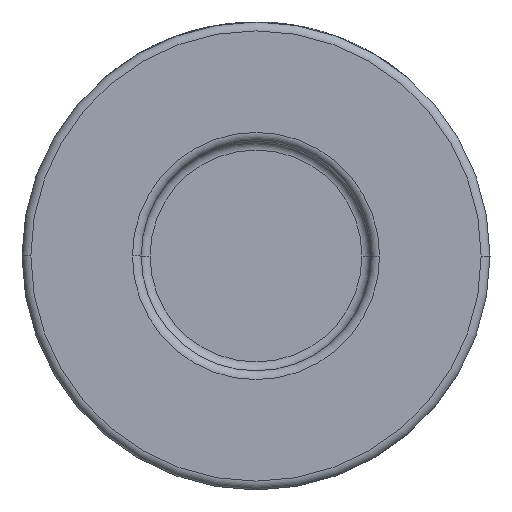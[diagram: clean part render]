
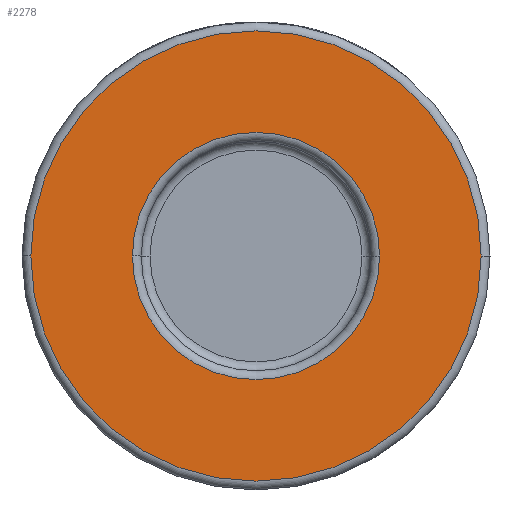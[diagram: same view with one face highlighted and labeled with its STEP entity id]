
A CAD part, front view. The second image highlights one B-rep face of the part: STEP entity #2278.
In plain terms, the highlighted planar face has unit normal (0, -1, 0).
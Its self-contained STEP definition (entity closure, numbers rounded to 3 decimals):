
#128 = CIRCLE ( 'NONE', #3861, 14. ) ;
#229 = DIRECTION ( 'NONE',  ( 1., 0., 0. ) ) ;
#269 = AXIS2_PLACEMENT_3D ( 'NONE', #3460, #2361, #2339 ) ;
#273 = AXIS2_PLACEMENT_3D ( 'NONE', #2271, #2292, #229 ) ;
#381 = DIRECTION ( 'NONE',  ( 0., 1., 0. ) ) ;
#511 = DIRECTION ( 'NONE',  ( 1., 0., 0. ) ) ;
#563 = CIRCLE ( 'NONE', #4014, 25.5 ) ;
#718 = DIRECTION ( 'NONE',  ( 1., 0., 0. ) ) ;
#931 = EDGE_LOOP ( 'NONE', ( #1660, #4456 ) ) ;
#1117 = EDGE_CURVE ( 'NONE', #3827, #1779, #128, .T. ) ;
#1243 = CARTESIAN_POINT ( 'NONE',  ( -14., -19., 0. ) ) ;
#1515 = ORIENTED_EDGE ( 'NONE', *, *, #3233, .T. ) ;
#1624 = DIRECTION ( 'NONE',  ( 0., -1., 0. ) ) ;
#1646 = PLANE ( 'NONE',  #269 ) ;
#1660 = ORIENTED_EDGE ( 'NONE', *, *, #2018, .T. ) ;
#1753 = CARTESIAN_POINT ( 'NONE',  ( 0., -19., 0. ) ) ;
#1779 = VERTEX_POINT ( 'NONE', #1243 ) ;
#1801 = CIRCLE ( 'NONE', #3782, 25.5 ) ;
#1807 = CARTESIAN_POINT ( 'NONE',  ( -25.5, -19., 0. ) ) ;
#2018 = EDGE_CURVE ( 'NONE', #3852, #2456, #1801, .T. ) ;
#2090 = CIRCLE ( 'NONE', #273, 14. ) ;
#2271 = CARTESIAN_POINT ( 'NONE',  ( 0., -19., 0. ) ) ;
#2278 = ADVANCED_FACE ( 'NONE', ( #2685, #3095 ), #1646, .T. ) ;
#2292 = DIRECTION ( 'NONE',  ( 0., 1., 0. ) ) ;
#2339 = DIRECTION ( 'NONE',  ( 1., 0., 0. ) ) ;
#2361 = DIRECTION ( 'NONE',  ( 0., -1., 0. ) ) ;
#2456 = VERTEX_POINT ( 'NONE', #1807 ) ;
#2664 = CARTESIAN_POINT ( 'NONE',  ( 0., -19., 0. ) ) ;
#2685 = FACE_BOUND ( 'NONE', #3905, .T. ) ;
#2790 = ORIENTED_EDGE ( 'NONE', *, *, #1117, .T. ) ;
#3095 = FACE_OUTER_BOUND ( 'NONE', #931, .T. ) ;
#3157 = DIRECTION ( 'NONE',  ( 1., 0., 0. ) ) ;
#3167 = EDGE_CURVE ( 'NONE', #2456, #3852, #563, .T. ) ;
#3233 = EDGE_CURVE ( 'NONE', #1779, #3827, #2090, .T. ) ;
#3251 = CARTESIAN_POINT ( 'NONE',  ( 25.5, -19., 0. ) ) ;
#3460 = CARTESIAN_POINT ( 'NONE',  ( 26.5, -19., 0. ) ) ;
#3678 = CARTESIAN_POINT ( 'NONE',  ( 14., -19., 0. ) ) ;
#3782 = AXIS2_PLACEMENT_3D ( 'NONE', #4327, #3862, #718 ) ;
#3827 = VERTEX_POINT ( 'NONE', #3678 ) ;
#3852 = VERTEX_POINT ( 'NONE', #3251 ) ;
#3861 = AXIS2_PLACEMENT_3D ( 'NONE', #1753, #381, #3157 ) ;
#3862 = DIRECTION ( 'NONE',  ( 0., -1., 0. ) ) ;
#3905 = EDGE_LOOP ( 'NONE', ( #2790, #1515 ) ) ;
#4014 = AXIS2_PLACEMENT_3D ( 'NONE', #2664, #1624, #511 ) ;
#4327 = CARTESIAN_POINT ( 'NONE',  ( 0., -19., 0. ) ) ;
#4456 = ORIENTED_EDGE ( 'NONE', *, *, #3167, .T. ) ;
